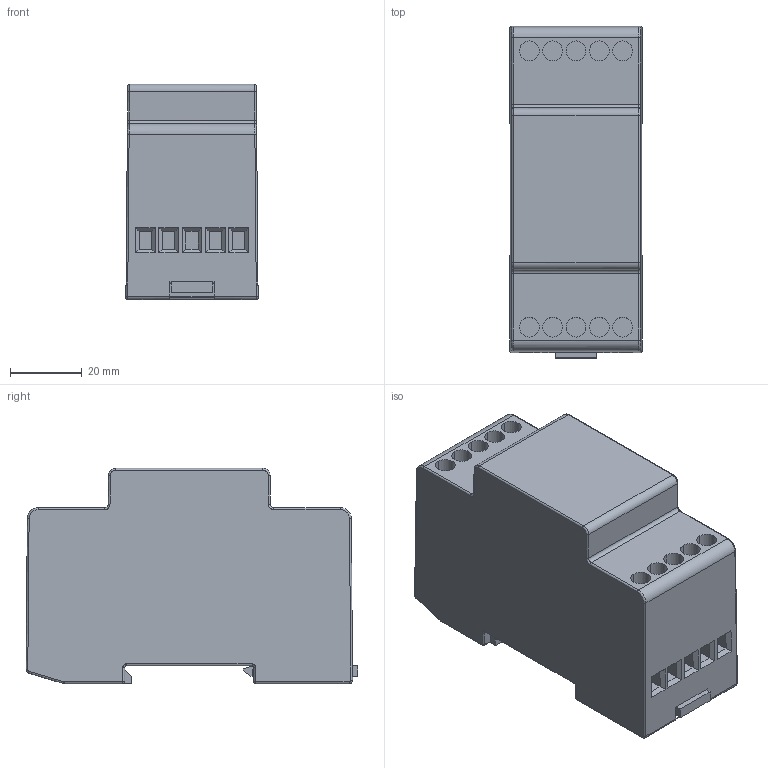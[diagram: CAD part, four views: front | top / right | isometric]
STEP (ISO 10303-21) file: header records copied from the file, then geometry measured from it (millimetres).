
FILE_DESCRIPTION (( 'STEP AP214' ), '1' );
FILE_NAME ('CPU.STEP', '2024-04-17T07:29:05', ( '' ), ( '' ), 'SwSTEP 2.0', 'SolidWorks 2022', '' );
FILE_SCHEMA (( 'AUTOMOTIVE_DESIGN' ));
Length unit declared in the file: millimetre
Products named in the file (1): CPU
Bounding box: 36.84 x 92.5 x 60 mm (x, y, z)
Volume: 161131.6 mm3; surface area: 26375.8 mm2
Topology: 1 solids, 1 shells, 255 faces, 639 edges, 396 vertices
Faces by surface type: plane 145, cylinder 78, bspline 22, sphere 8, torus 2
Entity records: 7999 total; most frequent: CARTESIAN_POINT 1945, ORIENTED_EDGE 1258, DIRECTION 1175, EDGE_CURVE 629, VECTOR 447, LINE 447, VERTEX_POINT 394, AXIS2_PLACEMENT_3D 364
